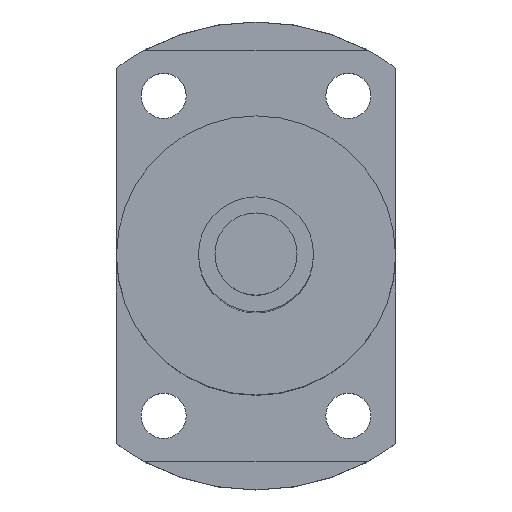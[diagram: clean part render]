
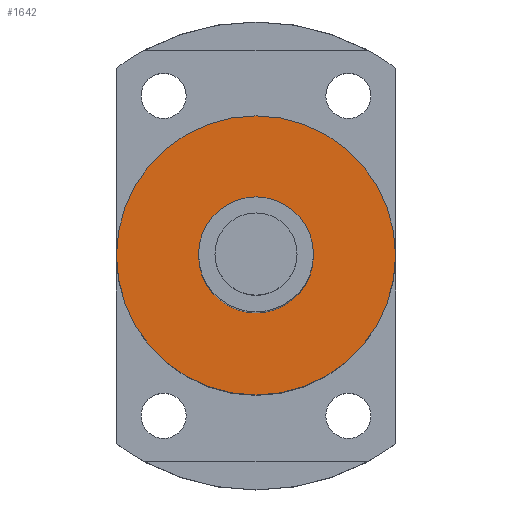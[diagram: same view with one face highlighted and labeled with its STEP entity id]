
A CAD part, top view. The second image highlights one B-rep face of the part: STEP entity #1642.
In plain terms, the highlighted planar face has unit normal (0, 0, 1).
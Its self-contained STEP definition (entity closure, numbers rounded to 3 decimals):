
#507=CARTESIAN_POINT('',(0.,0.,174.5));
#508=DIRECTION('',(0.,0.,1.));
#509=DIRECTION('',(1.,0.,0.));
#510=AXIS2_PLACEMENT_3D('',#507,#508,#509);
#512=CARTESIAN_POINT('',(0.,0.,174.5));
#513=DIRECTION('',(0.,0.,1.));
#514=DIRECTION('',(-1.,0.,0.));
#515=AXIS2_PLACEMENT_3D('',#512,#513,#514);
#517=CARTESIAN_POINT('',(0.,0.,174.5));
#518=DIRECTION('',(0.,0.,1.));
#519=DIRECTION('',(1.,0.,0.));
#520=AXIS2_PLACEMENT_3D('',#517,#518,#519);
#522=CARTESIAN_POINT('',(0.,0.,174.5));
#523=DIRECTION('',(0.,0.,1.));
#524=DIRECTION('',(-1.,0.,0.));
#525=AXIS2_PLACEMENT_3D('',#522,#523,#524);
#749=CARTESIAN_POINT('',(17.,0.,174.5));
#750=CARTESIAN_POINT('',(-17.,0.,174.5));
#751=VERTEX_POINT('',#749);
#752=VERTEX_POINT('',#750);
#761=CARTESIAN_POINT('',(7.,0.,174.5));
#762=CARTESIAN_POINT('',(-7.,0.,174.5));
#763=VERTEX_POINT('',#761);
#764=VERTEX_POINT('',#762);
#1627=CARTESIAN_POINT('',(0.,0.,174.5));
#1628=DIRECTION('',(0.,0.,1.));
#1629=DIRECTION('',(1.,0.,0.));
#1630=AXIS2_PLACEMENT_3D('',#1627,#1628,#1629);
#1631=PLANE('',#1630);
#1632=ORIENTED_EDGE('',*,*,#1607,.F.);
#1633=ORIENTED_EDGE('',*,*,#1621,.F.);
#1634=EDGE_LOOP('',(#1632,#1633));
#1635=FACE_OUTER_BOUND('',#1634,.F.);
#1637=ORIENTED_EDGE('',*,*,#1636,.T.);
#1639=ORIENTED_EDGE('',*,*,#1638,.T.);
#1640=EDGE_LOOP('',(#1637,#1639));
#1641=FACE_BOUND('',#1640,.F.);
#1642=ADVANCED_FACE('',(#1635,#1641),#1631,.T.);
#511=CIRCLE('',#510,17.);
#516=CIRCLE('',#515,17.);
#521=CIRCLE('',#520,7.);
#526=CIRCLE('',#525,7.);
#1607=EDGE_CURVE('',#751,#752,#511,.T.);
#1621=EDGE_CURVE('',#752,#751,#516,.T.);
#1636=EDGE_CURVE('',#763,#764,#521,.T.);
#1638=EDGE_CURVE('',#764,#763,#526,.T.);
